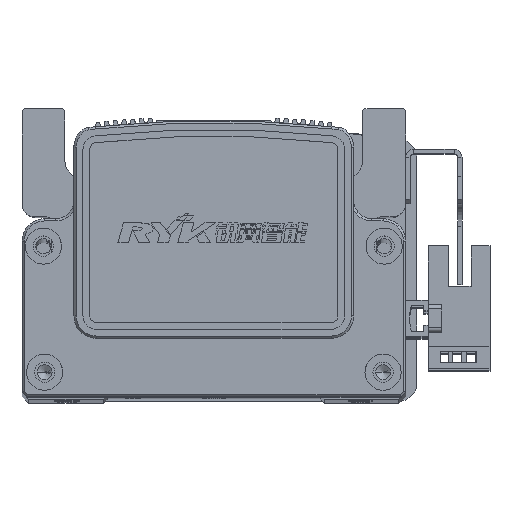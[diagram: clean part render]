
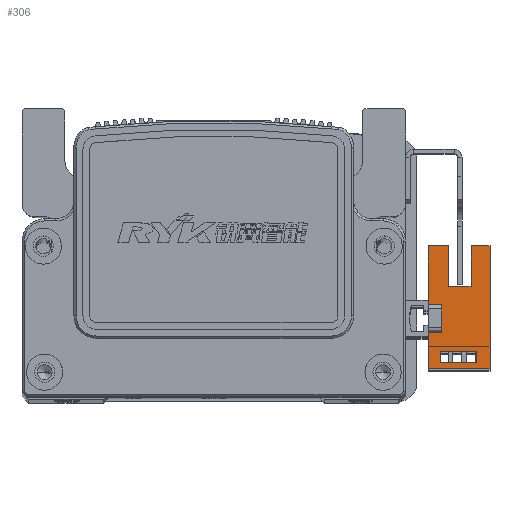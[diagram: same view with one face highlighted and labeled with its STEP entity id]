
A CAD part, top view. The second image highlights one B-rep face of the part: STEP entity #306.
In plain terms, the highlighted planar face has unit normal (0, 0, 1) as drawn and (1, 0, 0) by its records, which use the part's own axes.
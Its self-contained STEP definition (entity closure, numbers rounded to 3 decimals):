
#306 = ADVANCED_FACE ( 'NONE', ( #16761, #16773 ), #18275, .T. ) ;
#4512 = EDGE_CURVE ( 'NONE', #9789, #9822, #37081, .T. ) ;
#4523 = EDGE_CURVE ( 'NONE', #9832, #9784, #37047, .T. ) ;
#4586 = EDGE_CURVE ( 'NONE', #9853, #9832, #37112, .T. ) ;
#4594 = EDGE_CURVE ( 'NONE', #9822, #9835, #37203, .T. ) ;
#4599 = EDGE_CURVE ( 'NONE', #9814, #9862, #37172, .T. ) ;
#4610 = EDGE_CURVE ( 'NONE', #9791, #9814, #37208, .T. ) ;
#4623 = EDGE_CURVE ( 'NONE', #9862, #9893, #37260, .T. ) ;
#4624 = EDGE_CURVE ( 'NONE', #9816, #9784, #37277, .T. ) ;
#4642 = EDGE_CURVE ( 'NONE', #9893, #9816, #37238, .T. ) ;
#4653 = EDGE_CURVE ( 'NONE', #9840, #9801, #37252, .T. ) ;
#4657 = EDGE_CURVE ( 'NONE', #9835, #9853, #37264, .T. ) ;
#4724 = EDGE_CURVE ( 'NONE', #9801, #9887, #37347, .T. ) ;
#4728 = EDGE_CURVE ( 'NONE', #9868, #9789, #37384, .T. ) ;
#4736 = EDGE_CURVE ( 'NONE', #9887, #9863, #37390, .T. ) ;
#4739 = EDGE_CURVE ( 'NONE', #9863, #9840, #37392, .T. ) ;
#4758 = EDGE_CURVE ( 'NONE', #9868, #9791, #37454, .T. ) ;
#6681 = EDGE_LOOP ( 'NONE', ( #12384, #12382, #12431, #12374, #12371, #12430, #12403, #12424, #12435, #12393, #12378, #12388 ) ) ;
#6688 = EDGE_LOOP ( 'NONE', ( #12433, #12377, #12416, #12399 ) ) ;
#9784 = VERTEX_POINT ( 'NONE', #39657 ) ;
#9789 = VERTEX_POINT ( 'NONE', #39637 ) ;
#9791 = VERTEX_POINT ( 'NONE', #39619 ) ;
#9801 = VERTEX_POINT ( 'NONE', #39678 ) ;
#9814 = VERTEX_POINT ( 'NONE', #39712 ) ;
#9816 = VERTEX_POINT ( 'NONE', #39686 ) ;
#9822 = VERTEX_POINT ( 'NONE', #39688 ) ;
#9832 = VERTEX_POINT ( 'NONE', #39737 ) ;
#9835 = VERTEX_POINT ( 'NONE', #39703 ) ;
#9840 = VERTEX_POINT ( 'NONE', #39709 ) ;
#9853 = VERTEX_POINT ( 'NONE', #39718 ) ;
#9862 = VERTEX_POINT ( 'NONE', #39739 ) ;
#9863 = VERTEX_POINT ( 'NONE', #39724 ) ;
#9868 = VERTEX_POINT ( 'NONE', #39735 ) ;
#9887 = VERTEX_POINT ( 'NONE', #39789 ) ;
#9893 = VERTEX_POINT ( 'NONE', #39760 ) ;
#12371 = ORIENTED_EDGE ( 'NONE', *, *, #4523, .F. ) ;
#12374 = ORIENTED_EDGE ( 'NONE', *, *, #4624, .T. ) ;
#12377 = ORIENTED_EDGE ( 'NONE', *, *, #4739, .F. ) ;
#12378 = ORIENTED_EDGE ( 'NONE', *, *, #4758, .T. ) ;
#12382 = ORIENTED_EDGE ( 'NONE', *, *, #4623, .T. ) ;
#12384 = ORIENTED_EDGE ( 'NONE', *, *, #4599, .T. ) ;
#12388 = ORIENTED_EDGE ( 'NONE', *, *, #4610, .T. ) ;
#12393 = ORIENTED_EDGE ( 'NONE', *, *, #4728, .F. ) ;
#12399 = ORIENTED_EDGE ( 'NONE', *, *, #4724, .F. ) ;
#12403 = ORIENTED_EDGE ( 'NONE', *, *, #4657, .F. ) ;
#12416 = ORIENTED_EDGE ( 'NONE', *, *, #4736, .F. ) ;
#12424 = ORIENTED_EDGE ( 'NONE', *, *, #4594, .F. ) ;
#12430 = ORIENTED_EDGE ( 'NONE', *, *, #4586, .F. ) ;
#12431 = ORIENTED_EDGE ( 'NONE', *, *, #4642, .T. ) ;
#12433 = ORIENTED_EDGE ( 'NONE', *, *, #4653, .F. ) ;
#12435 = ORIENTED_EDGE ( 'NONE', *, *, #4512, .F. ) ;
#14789 = AXIS2_PLACEMENT_3D ( 'NONE', #18276, #18278, #18288 ) ;
#16761 = FACE_OUTER_BOUND ( 'NONE', #6681, .T. ) ;
#16773 = FACE_BOUND ( 'NONE', #6688, .T. ) ;
#18275 = PLANE ( 'NONE',  #14789 ) ;
#18276 = CARTESIAN_POINT ( 'NONE',  ( 3.2, 16.1, -10.7 ) ) ;
#18278 = DIRECTION ( 'NONE',  ( 1., 0., 0. ) ) ;
#18288 = DIRECTION ( 'NONE',  ( 0., 1., 0. ) ) ;
#36051 = CARTESIAN_POINT ( 'NONE',  ( 3.2, 16.1, 3. ) ) ;
#36065 = DIRECTION ( 'NONE',  ( 0., 1., 0. ) ) ;
#36066 = CARTESIAN_POINT ( 'NONE',  ( 3.2, 16.1, 3. ) ) ;
#36079 = DIRECTION ( 'NONE',  ( 0., 1., 0. ) ) ;
#37044 = VECTOR ( 'NONE', #36079, 1000. ) ;
#37047 = LINE ( 'NONE', #36051, #37044 ) ;
#37057 = VECTOR ( 'NONE', #36065, 1000. ) ;
#37081 = LINE ( 'NONE', #36066, #37057 ) ;
#37112 = LINE ( 'NONE', #38510, #37151 ) ;
#37151 = VECTOR ( 'NONE', #38483, 1000. ) ;
#37172 = LINE ( 'NONE', #38503, #37199 ) ;
#37199 = VECTOR ( 'NONE', #38481, 1000. ) ;
#37202 = VECTOR ( 'NONE', #38494, 1000. ) ;
#37203 = LINE ( 'NONE', #38476, #37202 ) ;
#37208 = LINE ( 'NONE', #38519, #37211 ) ;
#37211 = VECTOR ( 'NONE', #38538, 1000. ) ;
#37220 = VECTOR ( 'NONE', #38632, 1000. ) ;
#37229 = VECTOR ( 'NONE', #38578, 1000. ) ;
#37236 = VECTOR ( 'NONE', #38634, 1000. ) ;
#37238 = LINE ( 'NONE', #38610, #37236 ) ;
#37252 = LINE ( 'NONE', #38636, #37257 ) ;
#37255 = VECTOR ( 'NONE', #38599, 1000. ) ;
#37257 = VECTOR ( 'NONE', #38620, 1000. ) ;
#37260 = LINE ( 'NONE', #38535, #37229 ) ;
#37264 = LINE ( 'NONE', #38631, #37220 ) ;
#37277 = LINE ( 'NONE', #38561, #37255 ) ;
#37347 = LINE ( 'NONE', #38715, #37359 ) ;
#37359 = VECTOR ( 'NONE', #38686, 1000. ) ;
#37370 = VECTOR ( 'NONE', #38737, 1000. ) ;
#37382 = VECTOR ( 'NONE', #38752, 1000. ) ;
#37384 = LINE ( 'NONE', #38730, #37396 ) ;
#37390 = LINE ( 'NONE', #38764, #37370 ) ;
#37392 = LINE ( 'NONE', #38767, #37382 ) ;
#37396 = VECTOR ( 'NONE', #38740, 1000. ) ;
#37421 = VECTOR ( 'NONE', #38807, 1000. ) ;
#37454 = LINE ( 'NONE', #38806, #37421 ) ;
#38476 = CARTESIAN_POINT ( 'NONE',  ( 3.2, -3.1, 3. ) ) ;
#38481 = DIRECTION ( 'NONE',  ( 0., -1., 0. ) ) ;
#38483 = DIRECTION ( 'NONE',  ( 0., 0., 1. ) ) ;
#38494 = DIRECTION ( 'NONE',  ( 0., 0., -1. ) ) ;
#38503 = CARTESIAN_POINT ( 'NONE',  ( 3.2, 25.1, -6.5 ) ) ;
#38510 = CARTESIAN_POINT ( 'NONE',  ( 3.2, 3.1, 3. ) ) ;
#38519 = CARTESIAN_POINT ( 'NONE',  ( 3.2, 16.1, -10.7 ) ) ;
#38535 = CARTESIAN_POINT ( 'NONE',  ( 3.2, 7.1, -6.5 ) ) ;
#38538 = DIRECTION ( 'NONE',  ( 0., 0., 1. ) ) ;
#38561 = CARTESIAN_POINT ( 'NONE',  ( 3.2, 16.1, -10.7 ) ) ;
#38578 = DIRECTION ( 'NONE',  ( 0., 0., 1. ) ) ;
#38599 = DIRECTION ( 'NONE',  ( 0., 0., 1. ) ) ;
#38610 = CARTESIAN_POINT ( 'NONE',  ( 3.2, 25.1, -1.5 ) ) ;
#38620 = DIRECTION ( 'NONE',  ( 0., -1., 0. ) ) ;
#38631 = CARTESIAN_POINT ( 'NONE',  ( 3.2, 0., 0. ) ) ;
#38632 = DIRECTION ( 'NONE',  ( 0., 1., 0. ) ) ;
#38634 = DIRECTION ( 'NONE',  ( 0., 1., 0. ) ) ;
#38636 = CARTESIAN_POINT ( 'NONE',  ( 3.2, 16.1, 0.3 ) ) ;
#38686 = DIRECTION ( 'NONE',  ( 0., 0., -1. ) ) ;
#38715 = CARTESIAN_POINT ( 'NONE',  ( 3.2, -9.83, -10.7 ) ) ;
#38730 = CARTESIAN_POINT ( 'NONE',  ( 3.2, -11.1, 3. ) ) ;
#38737 = DIRECTION ( 'NONE',  ( 0., 1., 0. ) ) ;
#38740 = DIRECTION ( 'NONE',  ( 0., 0., 1. ) ) ;
#38752 = DIRECTION ( 'NONE',  ( 0., 0., 1. ) ) ;
#38764 = CARTESIAN_POINT ( 'NONE',  ( 3.2, 16.1, -7.7 ) ) ;
#38767 = CARTESIAN_POINT ( 'NONE',  ( 3.2, -7.33, -10.7 ) ) ;
#38806 = CARTESIAN_POINT ( 'NONE',  ( 3.2, 16.1, -10.7 ) ) ;
#38807 = DIRECTION ( 'NONE',  ( 0., 1., 0. ) ) ;
#39619 = CARTESIAN_POINT ( 'NONE',  ( 3.2, 16.1, -10.7 ) ) ;
#39637 = CARTESIAN_POINT ( 'NONE',  ( 3.2, -11.1, 3. ) ) ;
#39657 = CARTESIAN_POINT ( 'NONE',  ( 3.2, 16.1, 3. ) ) ;
#39678 = CARTESIAN_POINT ( 'NONE',  ( 3.2, -9.83, 0.3 ) ) ;
#39686 = CARTESIAN_POINT ( 'NONE',  ( 3.2, 16.1, -1.5 ) ) ;
#39688 = CARTESIAN_POINT ( 'NONE',  ( 3.2, -3.1, 3. ) ) ;
#39703 = CARTESIAN_POINT ( 'NONE',  ( 3.2, -3.1, 0. ) ) ;
#39709 = CARTESIAN_POINT ( 'NONE',  ( 3.2, -7.33, 0.3 ) ) ;
#39712 = CARTESIAN_POINT ( 'NONE',  ( 3.2, 16.1, -6.5 ) ) ;
#39718 = CARTESIAN_POINT ( 'NONE',  ( 3.2, 3.1, 0. ) ) ;
#39724 = CARTESIAN_POINT ( 'NONE',  ( 3.2, -7.33, -7.7 ) ) ;
#39735 = CARTESIAN_POINT ( 'NONE',  ( 3.2, -11.1, -10.7 ) ) ;
#39737 = CARTESIAN_POINT ( 'NONE',  ( 3.2, 3.1, 3. ) ) ;
#39739 = CARTESIAN_POINT ( 'NONE',  ( 3.2, 7.1, -6.5 ) ) ;
#39760 = CARTESIAN_POINT ( 'NONE',  ( 3.2, 7.1, -1.5 ) ) ;
#39789 = CARTESIAN_POINT ( 'NONE',  ( 3.2, -9.83, -7.7 ) ) ;
